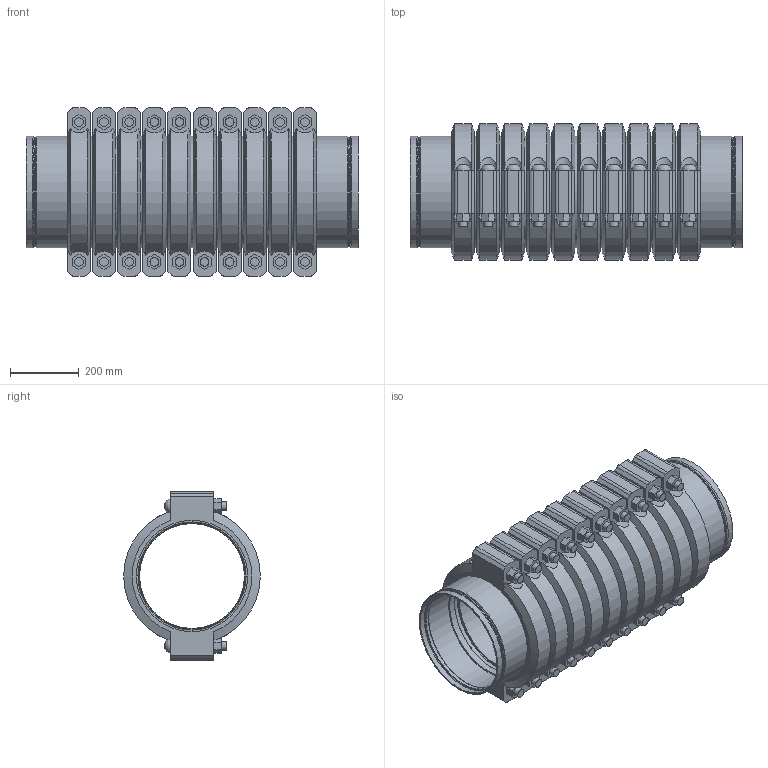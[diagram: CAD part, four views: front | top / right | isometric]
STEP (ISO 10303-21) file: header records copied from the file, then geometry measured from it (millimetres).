
FILE_DESCRIPTION(/* description */ ('VIC STRENGTHIN 100 EXPANSION JOINT 10 COUPLINGS NEUTRAL STYLE E155 (ST1)','CAx-IF Rec.Pracs.---Representation and Presentation of Product Manufacturing Information (PMI)---4.0---2014-10-13'),/* implementation_level */ '2;1');
FILE_NAME(/* name */ 'C:\Users\Vjadhav\AppData\Roaming\Autodesk\ApplicationPlugins\Victaulic.Temp\A165\Victaulic_SS-StrengThin 100_Expansion Joint_Neutral_10 Couplings_Style E155 (ST1)_10 Coup_Neut_12 (300).stp',/* time_stamp */ '2021-07-20T17:40:15+05:00',/* author */ ('kkamble'),/* organization */ ('Victaulic'),/* preprocessor_version */ 'ST-DEVELOPER v17.2',/* originating_system */ 'Autodesk Inventor 2019',/* authorisation */ '');
FILE_SCHEMA (('AP242_MANAGED_MODEL_BASED_3D_ENGINEERING_MIM_LF { 1 0 10303 442 1 1 4 }'));
Length unit declared in the file: inch
Products named in the file (4): E155-12.0; E494G-12.0; Nipple-12.0; 077-12.0
Assembly tree (21 placements, depth 2):
  E155-12.0
    E494G-12.0  x2
    Nipple-12.0  x9
    077-12.0  x10
Bounding box: 965.2 x 397 x 488.95 mm (x, y, z)
Volume: 40921960.9 mm3; surface area: 5369626.6 mm2
Topology: 21 solids, 41 shells, 788 faces, 1950 edges, 1370 vertices
Faces by surface type: plane 428, cylinder 264, cone 44, torus 32, bspline 20
Full cylindrical faces by diameter (mm): 25.4 x40, 27.432 x20, 304.8 x9, 306.426 x2, 308.737 x2, 314.3 x6, 314.96 x10, 315.976 x2, 318.287 x20, 323.85 x53
Entity records: 4137 total; most frequent: CARTESIAN_POINT 840, DIRECTION 707, ORIENTED_EDGE 580, AXIS2_PLACEMENT_3D 306, EDGE_CURVE 290, VERTEX_POINT 209, CIRCLE 175, EDGE_LOOP 135
